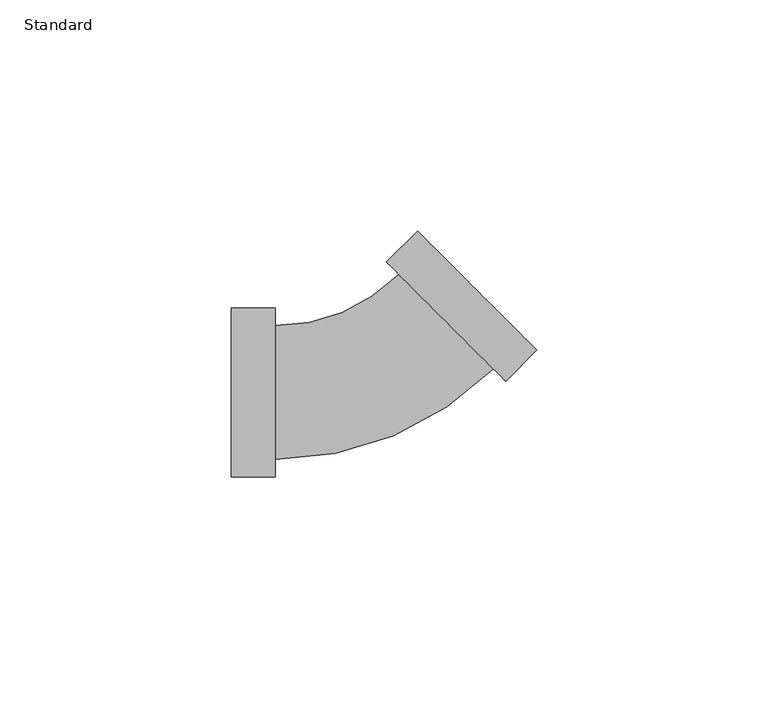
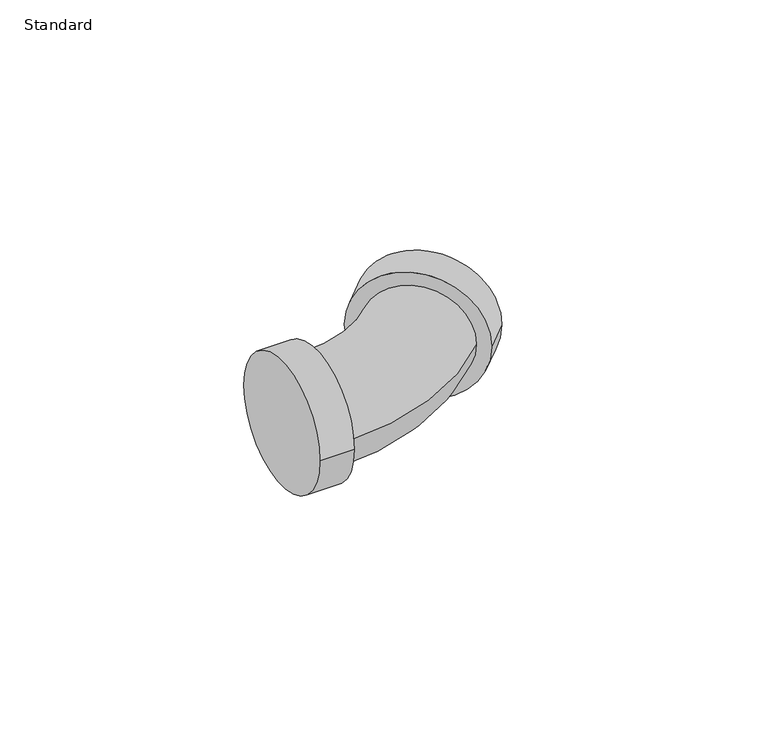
"""IFC4 building model written with IfcOpenShell, lengths in millimetres: pipe fitting geometry, Elbow_45_90-Lubrizol-CPVC-FlowGuard_MX : Standard."""

from ifc_helpers import new_model, si_unit, point, frame, origin, place, context, project, spatial, circle_curve, ellipse_curve, trimmed, source, transform, mapped, element, save
from ifc_brep_helpers import plane_surface, cylinder_surface, revolved_surface, advanced_brep


def standard_514dc241(model_context):
    return source(origin(), model_context, "Body", "AdvancedBrep", [
        advanced_brep(
        [(-31.1721875, -18.2471094, 0.0), (-31.1721875, 18.2471094, 0.0), (-21.6721875, -18.2471094, 0.0), (-21.6721875, 18.2471094, 0.0), (-21.6721875, -14.4440625, 0.0), (-21.6721875, 14.4440625, 0.0), (5.1110562, 25.5380453, 0.0), (25.5380453, 5.1110562, 0.0), (28.2272055, 2.421896, 0.0), (2.421896, 28.2272055, 0.0), (34.9447199, 9.1394104, 0.0), (9.1394104, 34.9447199, 0.0)],
        [
            (0, 1, circle_curve(frame((-31.1721875, 0.0, 0.0), z_axis=(-1.0, 0.0, 0.0), x_axis=(0.0, 1.0, 0.0)), 18.2471094)),
            (1, 0, circle_curve(frame((-31.1721875, 0.0, 0.0), z_axis=(-1.0, 0.0, 0.0), x_axis=(0.0, 1.0, 0.0)), 18.2471094)),
            (2, 3, circle_curve(frame((-21.6721875, 0.0, 0.0), z_axis=(1.0, 0.0, 0.0), x_axis=(0.0, 1.0, 0.0)), 18.2471094)),
            (3, 2, circle_curve(frame((-21.6721875, 0.0, 0.0), z_axis=(1.0, 0.0, 0.0), x_axis=(0.0, 1.0, 0.0)), 18.2471094)),
            (4, 5, circle_curve(frame((-21.6721875, 0.0, 0.0), z_axis=(-1.0, 0.0, 0.0), x_axis=(0.0, 1.0, 0.0)), 14.4440625)),
            (5, 4, circle_curve(frame((-21.6721875, 0.0, 0.0), z_axis=(-1.0, 0.0, 0.0), x_axis=(0.0, 1.0, 0.0)), 14.4440625)),
            (0, 2),
            (3, 1),
            (6, 5, circle_curve(frame((-21.6721875, 52.321289, 0.0), z_axis=(0.0, 0.0, -1.0), x_axis=(0.0, -1.0, 0.0)), 37.8772265)),
            (4, 7, circle_curve(frame((-21.6721875, 52.321289, 0.0), z_axis=(0.0, 0.0, 1.0), x_axis=(0.0, -1.0, 0.0)), 66.7653515)),
            (7, 6, circle_curve(frame((15.3245507, 15.3245507, 0.0), z_axis=(-0.707106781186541, -0.707106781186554, 0.0), x_axis=(-0.707106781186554, 0.707106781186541, 0.0)), 14.4440625)),
            (6, 7, circle_curve(frame((15.3245507, 15.3245507, 0.0), z_axis=(-0.707106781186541, -0.707106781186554, 0.0), x_axis=(-0.707106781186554, 0.707106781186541, 0.0)), 14.4440625)),
            (8, 9, circle_curve(frame((15.3245507, 15.3245507, 0.0), z_axis=(-0.7071067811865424, -0.7071067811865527, 0.0), x_axis=(-0.7071067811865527, 0.7071067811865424, 0.0)), 18.2471094)),
            (9, 8, circle_curve(frame((15.3245507, 15.3245507, 0.0), z_axis=(-0.7071067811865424, -0.7071067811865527, 0.0), x_axis=(-0.7071067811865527, 0.7071067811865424, 0.0)), 18.2471094)),
            (10, 11, circle_curve(frame((22.0420652, 22.0420652, 0.0), z_axis=(0.7071067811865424, 0.7071067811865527, 0.0), x_axis=(-0.7071067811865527, 0.7071067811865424, 0.0)), 18.2471094)),
            (11, 10, circle_curve(frame((22.0420652, 22.0420652, 0.0), z_axis=(0.7071067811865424, 0.7071067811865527, 0.0), x_axis=(-0.7071067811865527, 0.7071067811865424, 0.0)), 18.2471094)),
            (8, 10),
            (11, 9),
        ],
        [
            plane_surface(frame((-31.1721875, 0.0, 0.0), z_axis=(-1.0, 0.0, 0.0), x_axis=(0.0, 0.0, 1.0))),
            plane_surface(frame((-21.6721875, 0.0, 0.0), z_axis=(1.0, 0.0, 0.0), x_axis=(0.0, 0.0, 1.0))),
            cylinder_surface(frame((-31.1721875, 0.0, 0.0), z_axis=(-1.0, 0.0, 0.0), x_axis=(0.0, 1.0, 0.0)), 18.2471094),
            revolved_surface(trimmed(ellipse_curve(frame((-21.6721875, 0.0, 0.0), z_axis=(-1.0, 0.0, 0.0), x_axis=(0.0, 1.0, 0.0)), 14.4440625, 14.4440625), [point((-21.6721875, -14.4440625, 0.0))], [point((-21.6721875, 14.4440625, 0.0))], True, "CARTESIAN"), (-21.6721875, 52.321289, 0.0), (0.0, 0.0, 1.0)),
            revolved_surface(trimmed(ellipse_curve(frame((-21.6721875, 0.0, 0.0), z_axis=(-1.0, 0.0, 0.0), x_axis=(0.0, 1.0, 0.0)), 14.4440625, 14.4440625), [point((-21.6721875, 14.4440625, 0.0))], [point((-21.6721875, -14.4440625, 0.0))], True, "CARTESIAN"), (-21.6721875, 52.321289, 0.0), (0.0, 0.0, 1.0)),
            plane_surface(frame((15.3245507, 15.3245507, 0.0), z_axis=(-0.7071067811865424, -0.7071067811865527, 0.0), x_axis=(0.0, 0.0, 1.0))),
            plane_surface(frame((22.0420652, 22.0420652, 0.0), z_axis=(0.7071067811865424, 0.7071067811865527, 0.0), x_axis=(0.0, 0.0, 1.0))),
            cylinder_surface(frame((15.3245507, 15.3245507, 0.0), z_axis=(-0.7071067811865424, -0.7071067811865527, 0.0), x_axis=(-0.7071067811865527, 0.7071067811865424, 0.0)), 18.2471094),
        ],
        [
            (0, [[1, 2]]),
            (1, [[3, 4], [5, 6]]),
            (2, [[-1, 7, -4, 8]]),
            (2, [[-2, -8, -3, -7]]),
            (3, [[9, -5, 10, 11]]),
            (4, [[-9, 12, -10, -6]]),
            (5, [[13, 14], [-11, -12]]),
            (6, [[15, 16]]),
            (7, [[-13, 17, -16, 18]]),
            (7, [[-14, -18, -15, -17]]),
        ],
    ),
    ])


if __name__ == "__main__":
    model = new_model("IFC4")
    model_context = context("Model", 3, world=origin())
    ifc_project = project(units=[si_unit("LENGTHUNIT", "METRE", prefix="MILLI")], contexts=[model_context])
    site = spatial("IfcSite", under=ifc_project)
    building = spatial("IfcBuilding", under=site)
    placement = place(None, origin())
    standard_shape = standard_514dc241(model_context)
    element("IfcPipeFitting", 1, ObjectType="Elbow_45_90-Lubrizol-CPVC-FlowGuard_MX : Standard", at=placement, inside=building, context=model_context, shape_type="MappedRepresentation", body=[
        mapped(standard_shape, transform((0.0, 0.0, 0.0), x_axis=(1.0, 0.0, 0.0), y_axis=(0.0, 1.0, 0.0), z_axis=(0.0, 0.0, 1.0))),
    ])
    save(model, "model.ifc")
